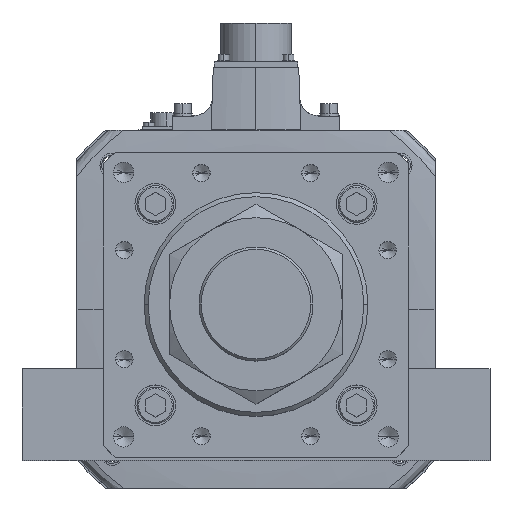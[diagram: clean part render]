
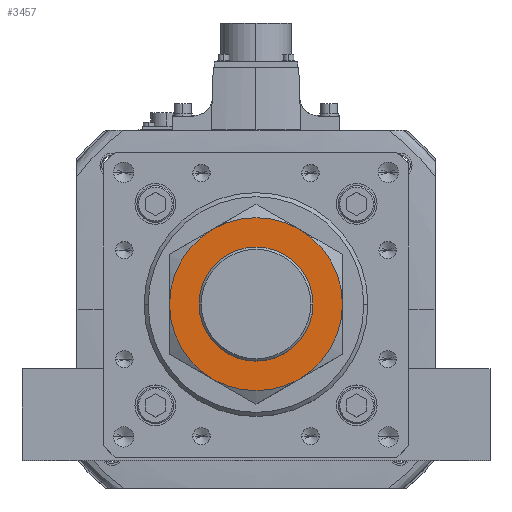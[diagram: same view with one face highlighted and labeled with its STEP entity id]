
A CAD part, top view. The second image highlights one B-rep face of the part: STEP entity #3457.
In plain terms, the highlighted planar face has unit normal (0, 0, 1).
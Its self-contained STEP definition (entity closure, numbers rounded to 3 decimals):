
#601 = EDGE_LOOP ( 'NONE', ( #35054, #8814 ) ) ;
#869 = DIRECTION ( 'NONE',  ( 1., 0., 0. ) ) ;
#1424 = AXIS2_PLACEMENT_3D ( 'NONE', #30185, #30358, #47676 ) ;
#1510 = DIRECTION ( 'NONE',  ( 0., 0., 1. ) ) ;
#3201 = ORIENTED_EDGE ( 'NONE', *, *, #40800, .F. ) ;
#3457 = ADVANCED_FACE ( 'NONE', ( #47949, #34060 ), #11058, .T. ) ;
#3740 = CARTESIAN_POINT ( 'NONE',  ( 42.5, 0., 34. ) ) ;
#4303 = DIRECTION ( 'NONE',  ( 1., 0., 0. ) ) ;
#4579 = CARTESIAN_POINT ( 'NONE',  ( 0., 0., 34. ) ) ;
#4648 = EDGE_CURVE ( 'NONE', #7728, #21159, #50819, .T. ) ;
#6377 = CARTESIAN_POINT ( 'NONE',  ( 21.25, 36.806, 34. ) ) ;
#6574 = CIRCLE ( 'NONE', #36762, 42.5 ) ;
#6709 = VERTEX_POINT ( 'NONE', #53216 ) ;
#7728 = VERTEX_POINT ( 'NONE', #3740 ) ;
#8151 = AXIS2_PLACEMENT_3D ( 'NONE', #17491, #21982, #4303 ) ;
#8814 = ORIENTED_EDGE ( 'NONE', *, *, #24587, .F. ) ;
#9184 = DIRECTION ( 'NONE',  ( 0., 0., -1. ) ) ;
#9918 = AXIS2_PLACEMENT_3D ( 'NONE', #34219, #38287, #29574 ) ;
#10315 = DIRECTION ( 'NONE',  ( 1., 0., 0. ) ) ;
#10559 = DIRECTION ( 'NONE',  ( 0., 0., -1. ) ) ;
#11058 = PLANE ( 'NONE',  #9918 ) ;
#11960 = CIRCLE ( 'NONE', #51244, 42.5 ) ;
#12638 = EDGE_CURVE ( 'NONE', #55211, #31944, #11960, .T. ) ;
#12990 = CARTESIAN_POINT ( 'NONE',  ( -28., 0., 34. ) ) ;
#13199 = CARTESIAN_POINT ( 'NONE',  ( 21.25, -36.806, 34. ) ) ;
#13884 = EDGE_CURVE ( 'NONE', #36652, #44946, #46017, .T. ) ;
#14775 = CARTESIAN_POINT ( 'NONE',  ( 0., 0., 34. ) ) ;
#17491 = CARTESIAN_POINT ( 'NONE',  ( 0., 0., 34. ) ) ;
#18333 = CIRCLE ( 'NONE', #18614, 42.5 ) ;
#18614 = AXIS2_PLACEMENT_3D ( 'NONE', #36993, #10559, #40888 ) ;
#18747 = EDGE_CURVE ( 'NONE', #21159, #6709, #49160, .T. ) ;
#18992 = CARTESIAN_POINT ( 'NONE',  ( -21.25, 36.806, 34. ) ) ;
#19102 = CARTESIAN_POINT ( 'NONE',  ( 0., 0., 34. ) ) ;
#20073 = ORIENTED_EDGE ( 'NONE', *, *, #18747, .F. ) ;
#21159 = VERTEX_POINT ( 'NONE', #13199 ) ;
#21982 = DIRECTION ( 'NONE',  ( 0., 0., 1. ) ) ;
#22891 = CIRCLE ( 'NONE', #8151, 28. ) ;
#24587 = EDGE_CURVE ( 'NONE', #44946, #36652, #22891, .T. ) ;
#28914 = DIRECTION ( 'NONE',  ( 1., 0., 0. ) ) ;
#29574 = DIRECTION ( 'NONE',  ( 1., 0., 0. ) ) ;
#30185 = CARTESIAN_POINT ( 'NONE',  ( 0., 0., 34. ) ) ;
#30358 = DIRECTION ( 'NONE',  ( 0., 0., -1. ) ) ;
#30652 = ORIENTED_EDGE ( 'NONE', *, *, #4648, .F. ) ;
#30998 = CARTESIAN_POINT ( 'NONE',  ( 0., 0., 34. ) ) ;
#31326 = VERTEX_POINT ( 'NONE', #39696 ) ;
#31358 = CIRCLE ( 'NONE', #31859, 42.5 ) ;
#31859 = AXIS2_PLACEMENT_3D ( 'NONE', #14775, #41409, #37708 ) ;
#31944 = VERTEX_POINT ( 'NONE', #6377 ) ;
#33344 = CARTESIAN_POINT ( 'NONE',  ( 0., 0., 34. ) ) ;
#33625 = AXIS2_PLACEMENT_3D ( 'NONE', #30998, #9184, #39737 ) ;
#34060 = FACE_BOUND ( 'NONE', #601, .T. ) ;
#34219 = CARTESIAN_POINT ( 'NONE',  ( 0., 0., 34. ) ) ;
#35054 = ORIENTED_EDGE ( 'NONE', *, *, #13884, .F. ) ;
#35641 = EDGE_CURVE ( 'NONE', #31326, #55211, #18333, .T. ) ;
#36652 = VERTEX_POINT ( 'NONE', #12990 ) ;
#36762 = AXIS2_PLACEMENT_3D ( 'NONE', #19102, #54675, #10315 ) ;
#36993 = CARTESIAN_POINT ( 'NONE',  ( 0., 0., 34. ) ) ;
#37708 = DIRECTION ( 'NONE',  ( 1., 0., 0. ) ) ;
#38287 = DIRECTION ( 'NONE',  ( 0., 0., 1. ) ) ;
#39696 = CARTESIAN_POINT ( 'NONE',  ( -42.5, 0., 34. ) ) ;
#39737 = DIRECTION ( 'NONE',  ( 1., 0., 0. ) ) ;
#40685 = DIRECTION ( 'NONE',  ( 0., 0., -1. ) ) ;
#40800 = EDGE_CURVE ( 'NONE', #31944, #7728, #6574, .T. ) ;
#40888 = DIRECTION ( 'NONE',  ( -1., 0., 0. ) ) ;
#41409 = DIRECTION ( 'NONE',  ( 0., 0., -1. ) ) ;
#41874 = ORIENTED_EDGE ( 'NONE', *, *, #35641, .F. ) ;
#43136 = ORIENTED_EDGE ( 'NONE', *, *, #12638, .F. ) ;
#44946 = VERTEX_POINT ( 'NONE', #56650 ) ;
#46017 = CIRCLE ( 'NONE', #57303, 28. ) ;
#46561 = EDGE_LOOP ( 'NONE', ( #30652, #3201, #43136, #41874, #48192, #20073 ) ) ;
#47676 = DIRECTION ( 'NONE',  ( 1., 0., 0. ) ) ;
#47949 = FACE_OUTER_BOUND ( 'NONE', #46561, .T. ) ;
#48192 = ORIENTED_EDGE ( 'NONE', *, *, #57411, .F. ) ;
#49160 = CIRCLE ( 'NONE', #33625, 42.5 ) ;
#50819 = CIRCLE ( 'NONE', #1424, 42.5 ) ;
#51244 = AXIS2_PLACEMENT_3D ( 'NONE', #4579, #40685, #869 ) ;
#53216 = CARTESIAN_POINT ( 'NONE',  ( -21.25, -36.806, 34. ) ) ;
#54675 = DIRECTION ( 'NONE',  ( 0., 0., -1. ) ) ;
#55211 = VERTEX_POINT ( 'NONE', #18992 ) ;
#56650 = CARTESIAN_POINT ( 'NONE',  ( 28., 0., 34. ) ) ;
#57303 = AXIS2_PLACEMENT_3D ( 'NONE', #33344, #1510, #28914 ) ;
#57411 = EDGE_CURVE ( 'NONE', #6709, #31326, #31358, .T. ) ;
